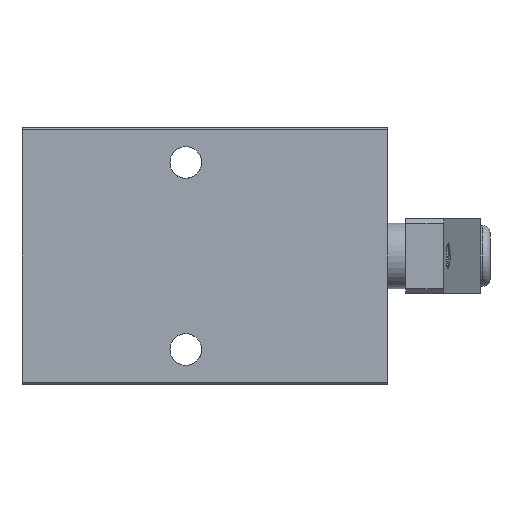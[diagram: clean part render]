
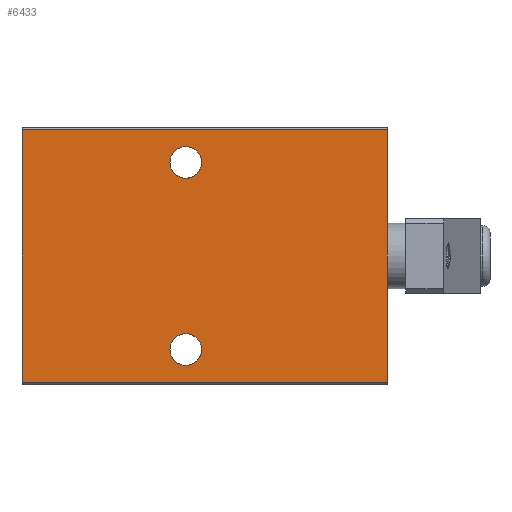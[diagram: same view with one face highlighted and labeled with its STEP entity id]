
A CAD part, front view. The second image highlights one B-rep face of the part: STEP entity #6433.
In plain terms, the highlighted planar face has unit normal (0, -1, 0).
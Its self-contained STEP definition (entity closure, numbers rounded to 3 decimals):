
#182=PLANE('',#6918);
#253=FACE_BOUND('',#916,.T.);
#254=FACE_BOUND('',#917,.T.);
#309=CIRCLE('',#6919,3.4);
#310=CIRCLE('',#6920,3.4);
#538=FACE_OUTER_BOUND('',#915,.T.);
#915=EDGE_LOOP('',(#4890,#4891,#4892,#4893));
#916=EDGE_LOOP('',(#4894));
#917=EDGE_LOOP('',(#4895));
#1779=LINE('',#22009,#2158);
#1824=LINE('',#22406,#2203);
#1850=LINE('',#26955,#2229);
#1851=LINE('',#26957,#2230);
#2158=VECTOR('',#7544,54.);
#2203=VECTOR('',#7625,54.);
#2229=VECTOR('',#7713,78.);
#2230=VECTOR('',#7716,78.);
#2696=VERTEX_POINT('',#22006);
#2697=VERTEX_POINT('',#22008);
#2752=VERTEX_POINT('',#22403);
#2753=VERTEX_POINT('',#22405);
#2782=VERTEX_POINT('',#26958);
#2783=VERTEX_POINT('',#26960);
#3453=EDGE_CURVE('',#2697,#2696,#1779,.T.);
#3527=EDGE_CURVE('',#2752,#2753,#1824,.T.);
#3590=EDGE_CURVE('',#2753,#2696,#1850,.T.);
#3591=EDGE_CURVE('',#2752,#2697,#1851,.T.);
#3592=EDGE_CURVE('',#2782,#2782,#309,.T.);
#3593=EDGE_CURVE('',#2783,#2783,#310,.T.);
#4890=ORIENTED_EDGE('',*,*,#3591,.T.);
#4891=ORIENTED_EDGE('',*,*,#3453,.T.);
#4892=ORIENTED_EDGE('',*,*,#3590,.F.);
#4893=ORIENTED_EDGE('',*,*,#3527,.F.);
#4894=ORIENTED_EDGE('',*,*,#3592,.T.);
#4895=ORIENTED_EDGE('',*,*,#3593,.T.);
#6433=ADVANCED_FACE('',(#538,#253,#254),#182,.T.);
#6918=AXIS2_PLACEMENT_3D('',#26956,#7714,#7715);
#6919=AXIS2_PLACEMENT_3D('',#26959,#7717,#7718);
#6920=AXIS2_PLACEMENT_3D('',#26961,#7719,#7720);
#7544=DIRECTION('',(0.,0.,-1.));
#7625=DIRECTION('',(0.,0.,-1.));
#7713=DIRECTION('',(-1.,0.,0.));
#7714=DIRECTION('center_axis',(0.,-1.,0.));
#7715=DIRECTION('ref_axis',(0.,0.,-1.));
#7716=DIRECTION('',(-1.,0.,0.));
#7717=DIRECTION('center_axis',(0.,1.,0.));
#7718=DIRECTION('ref_axis',(0.,0.,1.));
#7719=DIRECTION('center_axis',(0.,1.,0.));
#7720=DIRECTION('ref_axis',(0.,0.,1.));
#22006=CARTESIAN_POINT('',(0.,-17.5,-27.));
#22008=CARTESIAN_POINT('',(0.,-17.5,27.));
#22009=CARTESIAN_POINT('',(0.,-17.5,27.));
#22403=CARTESIAN_POINT('',(78.,-17.5,27.));
#22405=CARTESIAN_POINT('',(78.,-17.5,-27.));
#22406=CARTESIAN_POINT('',(78.,-17.5,27.));
#26955=CARTESIAN_POINT('',(78.,-17.5,-27.));
#26956=CARTESIAN_POINT('Origin',(0.,-17.5,27.5));
#26957=CARTESIAN_POINT('',(78.,-17.5,27.));
#26958=CARTESIAN_POINT('',(35.,-17.5,-23.4));
#26959=CARTESIAN_POINT('Origin',(35.,-17.5,-20.));
#26960=CARTESIAN_POINT('',(35.,-17.5,16.6));
#26961=CARTESIAN_POINT('Origin',(35.,-17.5,20.));
